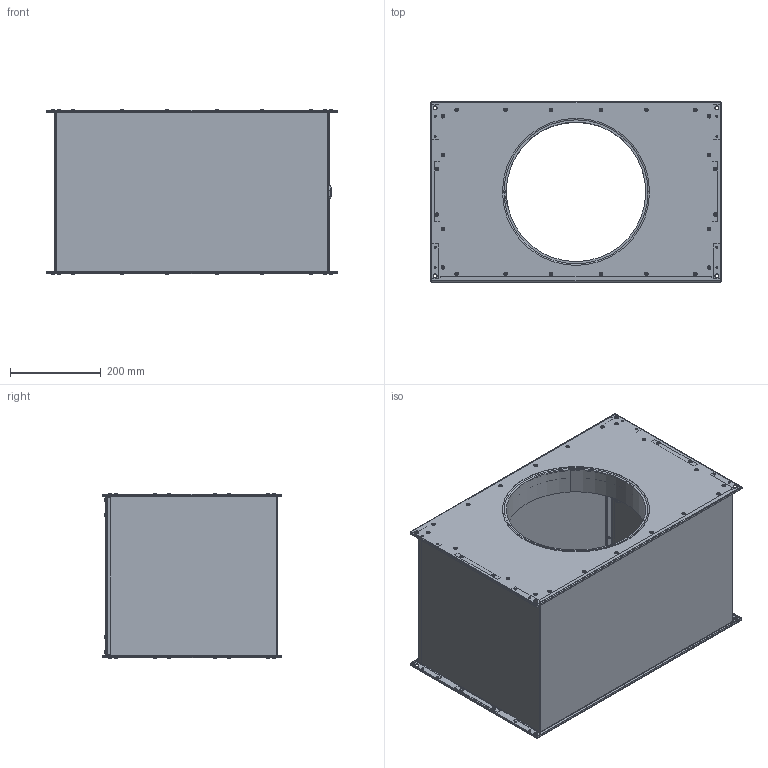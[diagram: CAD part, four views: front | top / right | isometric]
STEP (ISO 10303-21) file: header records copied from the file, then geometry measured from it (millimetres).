
FILE_DESCRIPTION (( 'STEP AP203' ), '1' );
FILE_NAME ('136746-00_EMKI6035EC20.STEP', '2016-04-20T05:42:43', ( '' ), ( '' ), 'SwSTEP 2.0', 'SolidWorks 2012', '' );
FILE_SCHEMA (( 'CONFIG_CONTROL_DESIGN' ));
Length unit declared in the file: millimetre
Products named in the file (1): 136746-00_EMKI6035EC20
Bounding box: 639 x 396 x 362.8 mm (x, y, z)
Surface area: 2459650.5 mm2 (no closed solid volume)
Topology: 0 solids, 125 shells, 687 faces, 2260 edges, 1648 vertices
Faces by surface type: cylinder 323, plane 198, torus 140, bspline 16, cone 10
Entity records: 26630 total; most frequent: CARTESIAN_POINT 6340, DIRECTION 4689, ORIENTED_EDGE 3322, EDGE_CURVE 2252, AXIS2_PLACEMENT_3D 1953, VERTEX_POINT 1648, CIRCLE 1281, EDGE_LOOP 906
